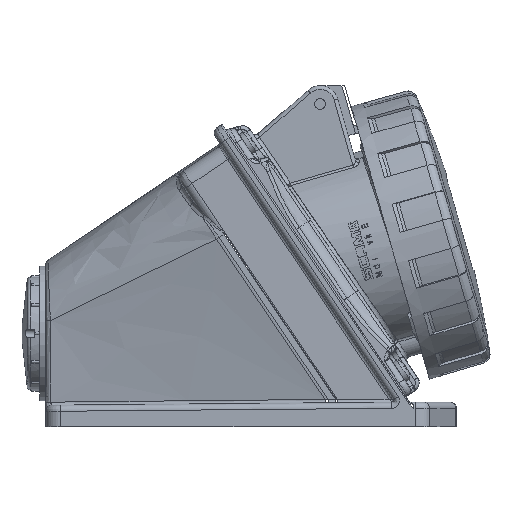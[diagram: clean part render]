
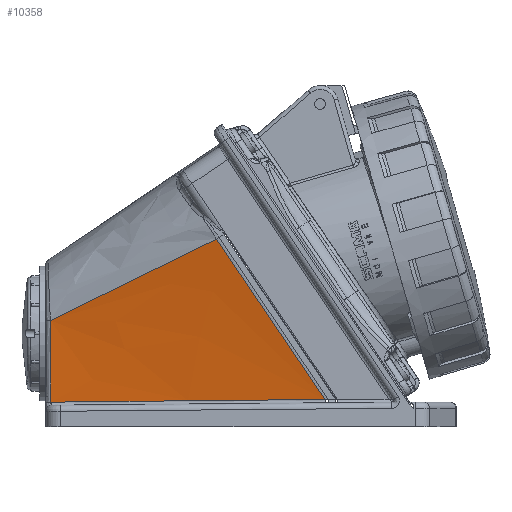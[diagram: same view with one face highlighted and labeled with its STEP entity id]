
A CAD part, left-side view. The second image highlights one B-rep face of the part: STEP entity #10358.
In plain terms, the highlighted free-form (B-spline) face has degree [2, 3] with [3, 4] control points.
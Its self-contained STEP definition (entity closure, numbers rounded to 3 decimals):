
#40=(
BOUNDED_CURVE()
B_SPLINE_CURVE(3,(#47770,#47771,#47772,#47773),.UNSPECIFIED.,.F.,.F.)
B_SPLINE_CURVE_WITH_KNOTS((4,4),(0.,1.),.UNSPECIFIED.)
CURVE()
GEOMETRIC_REPRESENTATION_ITEM()
RATIONAL_B_SPLINE_CURVE((1.027,1.027,1.027,
1.027))
REPRESENTATION_ITEM('')
);
#586=(
BOUNDED_SURFACE()
B_SPLINE_SURFACE(2,3,((#47955,#47956,#47957,#47958),(#47959,#47960,#47961,
#47962),(#47963,#47964,#47965,#47966)),.UNSPECIFIED.,.F.,.F.,.F.)
B_SPLINE_SURFACE_WITH_KNOTS((3,3),(4,4),(0.,1.),(0.,1.),.UNSPECIFIED.)
GEOMETRIC_REPRESENTATION_ITEM()
RATIONAL_B_SPLINE_SURFACE(((1.027,1.027,1.027,
1.027),(1.027,1.027,1.027,1.027),
(1.027,1.027,1.027,1.027)))
REPRESENTATION_ITEM('')
SURFACE()
);
#7641=FACE_OUTER_BOUND('',#11387,.T.);
#10358=ADVANCED_FACE('',(#7641),#586,.T.);
#11387=EDGE_LOOP('',(#16329,#16330,#16331,#16332,#16333));
#16329=ORIENTED_EDGE('',*,*,#21031,.T.);
#16330=ORIENTED_EDGE('',*,*,#21032,.T.);
#16331=ORIENTED_EDGE('',*,*,#20743,.T.);
#16332=ORIENTED_EDGE('',*,*,#20995,.T.);
#16333=ORIENTED_EDGE('',*,*,#20969,.T.);
#18197=VERTEX_POINT('',#46535);
#18198=VERTEX_POINT('',#46540);
#18357=VERTEX_POINT('',#47584);
#18358=VERTEX_POINT('',#47595);
#18383=VERTEX_POINT('',#47941);
#20743=EDGE_CURVE('',#18198,#18197,#21814,.T.);
#20969=EDGE_CURVE('',#18358,#18357,#21860,.T.);
#20995=EDGE_CURVE('',#18197,#18358,#40,.T.);
#21031=EDGE_CURVE('',#18357,#18383,#21872,.T.);
#21032=EDGE_CURVE('',#18383,#18198,#21873,.T.);
#21814=B_SPLINE_CURVE_WITH_KNOTS('',3,(#46536,#46537,#46538,#46539),
 .UNSPECIFIED.,.F.,.F.,(4,4),(0.,1.),.UNSPECIFIED.);
#21860=B_SPLINE_CURVE_WITH_KNOTS('',3,(#47585,#47586,#47587,#47588,#47589,
#47590,#47591,#47592,#47593,#47594),.UNSPECIFIED.,.F.,.F.,(4,3,3,4),(0.,
0.151,0.575,1.),.UNSPECIFIED.);
#21872=B_SPLINE_CURVE_WITH_KNOTS('',3,(#47928,#47929,#47930,#47931,#47932,
#47933,#47934,#47935,#47936,#47937,#47938,#47939,#47940),.UNSPECIFIED.,
 .F.,.F.,(4,3,3,3,4),(0.,0.008,0.243,0.504,
1.),.UNSPECIFIED.);
#21873=B_SPLINE_CURVE_WITH_KNOTS('',3,(#47942,#47943,#47944,#47945,#47946,
#47947,#47948,#47949,#47950,#47951,#47952,#47953,#47954),.UNSPECIFIED.,
 .F.,.F.,(4,3,3,3,4),(0.,0.046,0.29,0.858,
1.),.UNSPECIFIED.);
#46535=CARTESIAN_POINT('',(-38.796,-66.044,9.316));
#46536=CARTESIAN_POINT('',(-38.796,-66.044,9.316));
#46537=CARTESIAN_POINT('',(-38.796,-66.044,9.316));
#46538=CARTESIAN_POINT('',(-38.796,-66.044,9.316));
#46539=CARTESIAN_POINT('',(-38.796,-66.044,9.316));
#46540=CARTESIAN_POINT('',(-38.796,-66.044,9.316));
#47584=CARTESIAN_POINT('',(-25.45,-11.798,-44.076));
#47585=CARTESIAN_POINT('',(-25.575,-11.621,-17.344));
#47586=CARTESIAN_POINT('',(-25.566,-11.635,-18.686));
#47587=CARTESIAN_POINT('',(-25.557,-11.648,-20.028));
#47588=CARTESIAN_POINT('',(-25.549,-11.66,-21.37));
#47589=CARTESIAN_POINT('',(-25.526,-11.693,-25.154));
#47590=CARTESIAN_POINT('',(-25.508,-11.719,-28.938));
#47591=CARTESIAN_POINT('',(-25.492,-11.741,-32.722));
#47592=CARTESIAN_POINT('',(-25.476,-11.764,-36.507));
#47593=CARTESIAN_POINT('',(-25.462,-11.782,-40.291));
#47594=CARTESIAN_POINT('',(-25.45,-11.798,-44.076));
#47595=CARTESIAN_POINT('',(-25.575,-11.621,-17.344));
#47770=CARTESIAN_POINT('',(-38.901,-66.478,9.529));
#47771=CARTESIAN_POINT('',(-34.333,-47.673,0.317));
#47772=CARTESIAN_POINT('',(-29.766,-28.876,-8.892));
#47773=CARTESIAN_POINT('',(-25.201,-10.085,-18.096));
#47928=CARTESIAN_POINT('',(-25.45,-11.798,-44.076));
#47929=CARTESIAN_POINT('',(-25.485,-12.042,-44.074));
#47930=CARTESIAN_POINT('',(-25.521,-12.285,-44.071));
#47931=CARTESIAN_POINT('',(-25.556,-12.529,-44.068));
#47932=CARTESIAN_POINT('',(-26.576,-19.546,-43.992));
#47933=CARTESIAN_POINT('',(-27.608,-26.56,-43.919));
#47934=CARTESIAN_POINT('',(-28.646,-33.574,-43.848));
#47935=CARTESIAN_POINT('',(-29.805,-41.402,-43.769));
#47936=CARTESIAN_POINT('',(-30.971,-49.229,-43.692));
#47937=CARTESIAN_POINT('',(-32.141,-57.055,-43.617));
#47938=CARTESIAN_POINT('',(-34.359,-71.893,-43.473));
#47939=CARTESIAN_POINT('',(-36.592,-86.729,-43.334));
#47940=CARTESIAN_POINT('',(-38.83,-101.564,-43.197));
#47941=CARTESIAN_POINT('',(-38.83,-101.564,-43.197));
#47942=CARTESIAN_POINT('',(-38.83,-101.564,-43.197));
#47943=CARTESIAN_POINT('',(-38.829,-101.018,-42.39));
#47944=CARTESIAN_POINT('',(-38.829,-100.472,-41.582));
#47945=CARTESIAN_POINT('',(-38.829,-99.926,-40.775));
#47946=CARTESIAN_POINT('',(-38.826,-97.037,-36.502));
#47947=CARTESIAN_POINT('',(-38.824,-94.148,-32.229));
#47948=CARTESIAN_POINT('',(-38.822,-91.258,-27.956));
#47949=CARTESIAN_POINT('',(-38.816,-84.536,-18.016));
#47950=CARTESIAN_POINT('',(-38.81,-77.813,-8.076));
#47951=CARTESIAN_POINT('',(-38.802,-71.088,1.863));
#47952=CARTESIAN_POINT('',(-38.8,-69.407,4.347));
#47953=CARTESIAN_POINT('',(-38.798,-67.726,6.832));
#47954=CARTESIAN_POINT('',(-38.796,-66.044,9.316));
#47955=CARTESIAN_POINT('',(-25.201,-10.085,-18.096));
#47956=CARTESIAN_POINT('',(-29.766,-28.876,-8.892));
#47957=CARTESIAN_POINT('',(-34.333,-47.673,0.317));
#47958=CARTESIAN_POINT('',(-38.901,-66.478,9.529));
#47959=CARTESIAN_POINT('',(-25.201,-10.085,-35.096));
#47960=CARTESIAN_POINT('',(-29.766,-37.183,-32.544));
#47961=CARTESIAN_POINT('',(-34.333,-64.292,-29.99));
#47962=CARTESIAN_POINT('',(-38.901,-91.411,-27.436));
#47963=CARTESIAN_POINT('',(-25.201,-10.085,-52.096));
#47964=CARTESIAN_POINT('',(-29.766,-45.491,-56.196));
#47965=CARTESIAN_POINT('',(-34.333,-80.911,-60.298));
#47966=CARTESIAN_POINT('',(-38.901,-116.344,-64.401));
